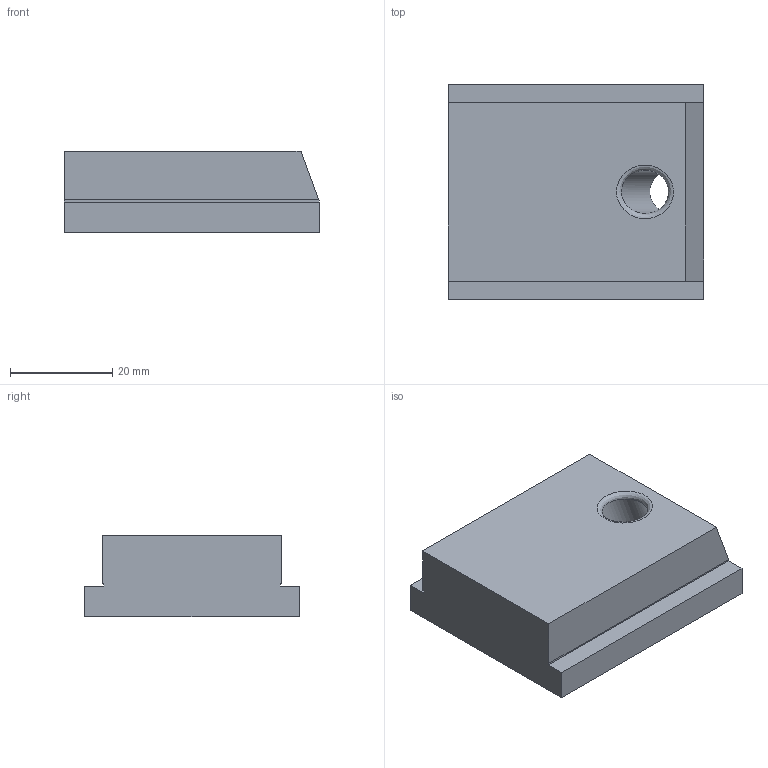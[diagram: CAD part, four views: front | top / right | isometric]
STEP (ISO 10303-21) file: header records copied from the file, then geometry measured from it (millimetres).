
FILE_DESCRIPTION (( 'STEP AP214' ), '1' );
FILE_NAME ('Schieber_-_H16 B35 L50.step', '2024-01-15T11:27:10', ( '' ), ( '' ), 'SwSTEP 2.0', 'SolidWorks 2020', '' );
FILE_SCHEMA (( 'AUTOMOTIVE_DESIGN' ));
Length unit declared in the file: millimetre
Products named in the file (1): Schieber_-_H16 B35 L50
Bounding box: 50 x 42 x 16 mm (x, y, z)
Volume: 28474.8 mm3; surface area: 7243.2 mm2
Topology: 1 solids, 1 shells, 210 faces, 564 edges, 375 vertices
Faces by surface type: plane 110, bspline 99, cylinder 1
Full cylindrical faces by diameter (mm): 8.5 x1
Entity records: 11626 total; most frequent: CARTESIAN_POINT 7021, ORIENTED_EDGE 1124, DIRECTION 587, EDGE_CURVE 562, VERTEX_POINT 375, LINE 363, VECTOR 363, EDGE_LOOP 233
